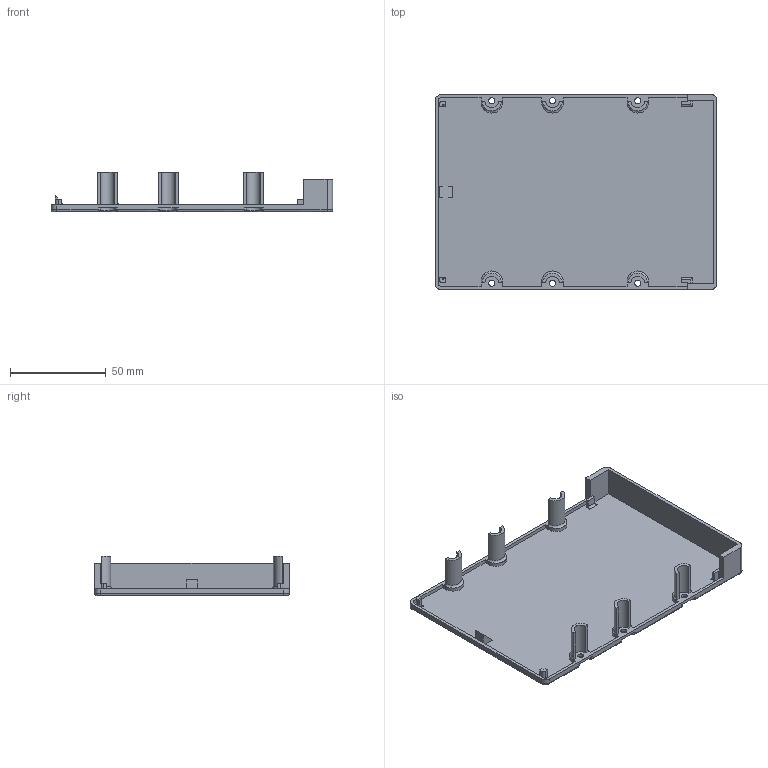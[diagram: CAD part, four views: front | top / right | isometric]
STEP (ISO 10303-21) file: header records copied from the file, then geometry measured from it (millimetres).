
FILE_DESCRIPTION(/* description */ (''),/* implementation_level */ '2;1');
FILE_NAME(/* name */ 'E:/OneDrive/projects/3.5 Hard Drive 50-pin SCSI PCB/123d design/New folder/3.5 Hard Drive Case 50-pin SCSI ED top cover.stp',/* time_stamp */ '2022-01-04T23:41:03-05:00',/* author */ (''),/* organization */ (''),/* preprocessor_version */ 'ST-DEVELOPER v15.2',/* originating_system */ 'Autodesk Translator Framework v2.0.0.5431',/* authorisation */ '');
FILE_SCHEMA (('AUTOMOTIVE_DESIGN { 1 0 10303 214 3 1 1 }'));
Length unit declared in the file: centimetre
Products named in the file (1): 3.5 Hard Drive Case 50-pin SCSI ED top cover
Bounding box: 147 x 101.6 x 20.66 mm (x, y, z)
Volume: 31374.2 mm3; surface area: 39435.9 mm2
Topology: 1 solids, 1 shells, 212 faces, 573 edges, 354 vertices
Faces by surface type: plane 104, cylinder 80, torus 16, bspline 12
Full cylindrical faces by diameter (mm): 3.2 x6
Entity records: 6998 total; most frequent: CARTESIAN_POINT 1698, ORIENTED_EDGE 1110, DIRECTION 1093, EDGE_CURVE 555, AXIS2_PLACEMENT_3D 373, VERTEX_POINT 354, LINE 347, VECTOR 347
